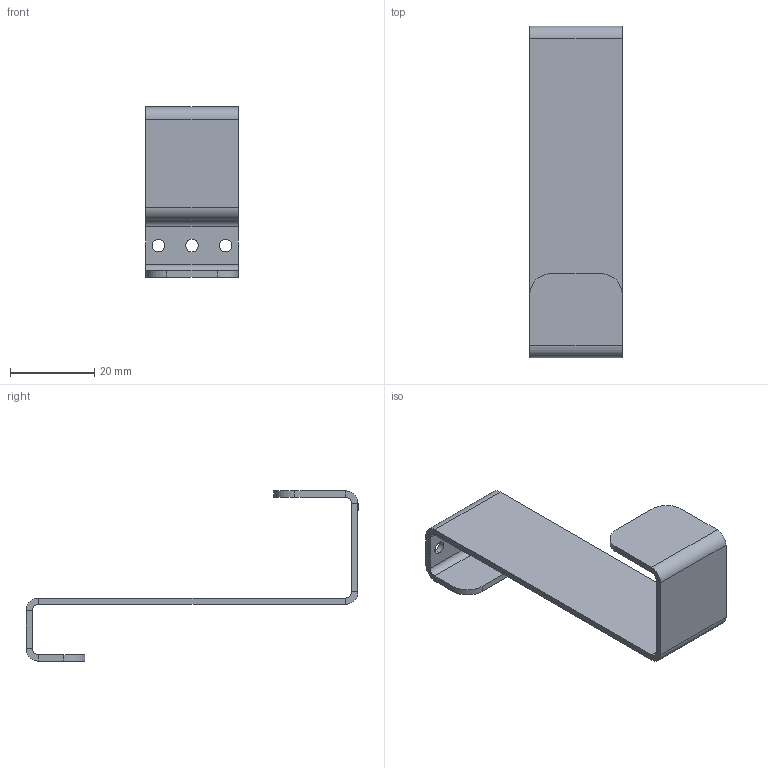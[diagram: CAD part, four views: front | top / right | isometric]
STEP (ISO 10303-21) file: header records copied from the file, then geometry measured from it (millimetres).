
FILE_DESCRIPTION (( 'STEP AP214' ), '1' );
FILE_NAME ('Wieszak na kabinê prysznicow¹ GLOS.STEP', '2025-02-11T10:08:54', ( '' ), ( '' ), 'SwSTEP 2.0', 'SolidWorks 2021', '' );
FILE_SCHEMA (( 'AUTOMOTIVE_DESIGN' ));
Length unit declared in the file: millimetre
Products named in the file (1): Wieszak na kabinê prysznicow¹ GLOS
Bounding box: 22 x 79 x 40.5 mm (x, y, z)
Volume: 4725.5 mm3; surface area: 6831.7 mm2
Topology: 1 solids, 1 shells, 48 faces, 106 edges, 60 vertices
Faces by surface type: plane 30, cylinder 18
Entity records: 1336 total; most frequent: DIRECTION 240, CARTESIAN_POINT 215, ORIENTED_EDGE 212, EDGE_CURVE 106, AXIS2_PLACEMENT_3D 85, VECTOR 70, LINE 70, VERTEX_POINT 60
